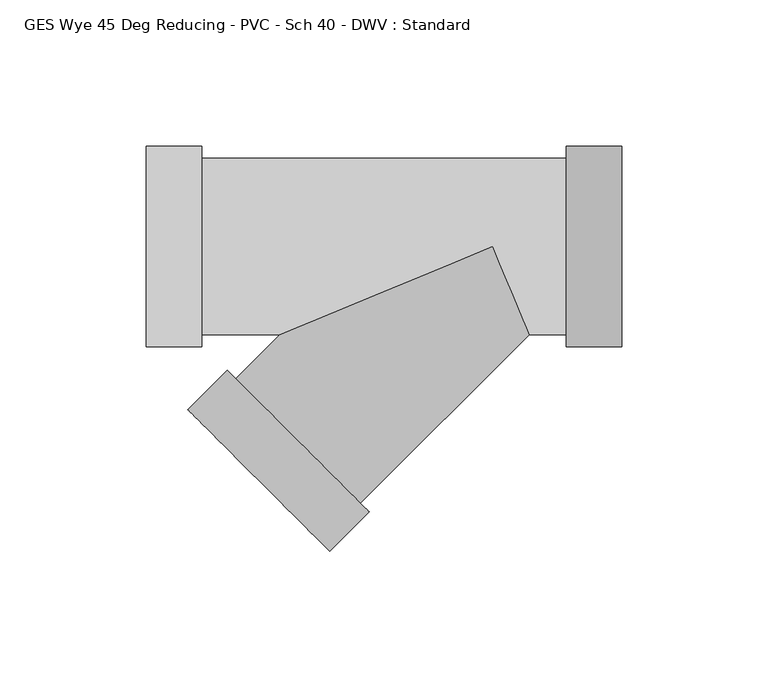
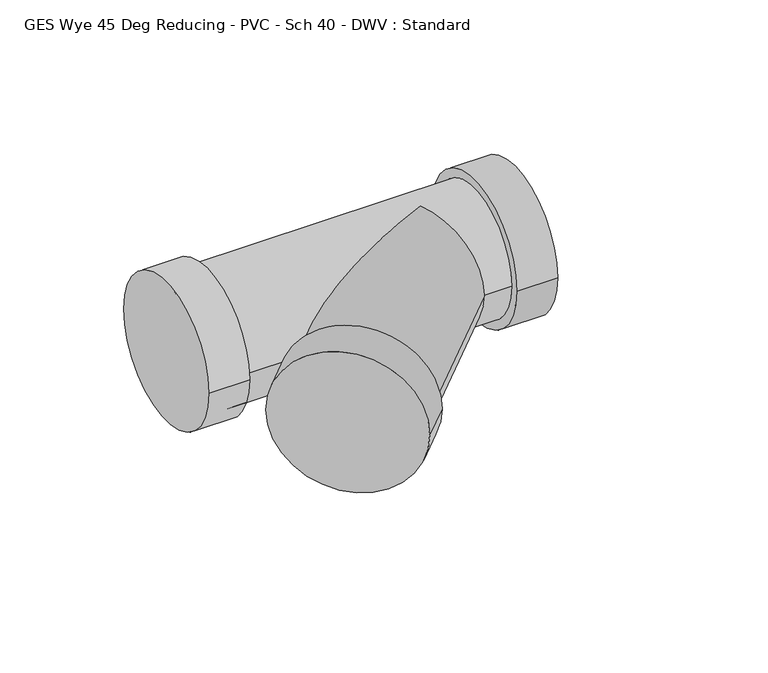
"""IFC4 building model written with IfcOpenShell, lengths in millimetres: pipe fitting geometry, GES Wye 45 Deg Reducing - PVC - Sch 40 - DWV : Standard."""

from ifc_helpers import new_model, si_unit, frame, origin, place, context, project, spatial, circle_curve, ellipse_curve, source, transform, mapped, element, save
from ifc_brep_helpers import plane_surface, cylinder_surface, advanced_brep


def ges_wye_45_deg_reducing_pvc_sch_40_dwv_standard_a890de96(model_context):
    return source(origin(), model_context, "Body", "AdvancedBrep", [
        advanced_brep(
        [(-99.5759375, 34.3154, 0.0), (-99.5759375, -34.3154, 0.0), (-99.5759375, 30.1625, 0.0), (-99.5759375, -30.1625, 0.0), (-118.6259375, 34.3154, 0.0), (-118.6259375, -34.3154, 0.0), (25.1182188, -34.3154, 0.0), (25.1182188, 34.3154, 0.0), (25.1182188, -30.1625, 0.0), (25.1182188, 30.1625, 0.0), (44.1682188, -34.3154, 0.0), (44.1682188, 34.3154, 0.0), (12.4939328, -30.1625, 0.0), (0.0, 0.0, -30.1625), (-72.8174561, -30.1625, 0.0), (0.0, 0.0, 30.1625), (-87.9357975, -45.2812115, 0.0), (-45.2790588, -87.936906, 0.0), (-90.8723772, -42.3447037, 0.0), (-42.3424791, -90.8734138, 0.0), (-104.3425965, -55.8152527, 0.0), (-55.8126984, -104.3439628, 0.0)],
        [
            (0, 1, circle_curve(frame((-99.5759375, 0.0, 0.0), z_axis=(1.0, 0.0, 0.0), x_axis=(0.0, -1.0, 0.0)), 34.3154)),
            (1, 0, circle_curve(frame((-99.5759375, 0.0, 0.0), z_axis=(1.0, 0.0, 0.0), x_axis=(0.0, -1.0, 0.0)), 34.3154)),
            (2, 3, circle_curve(frame((-99.5759375, 0.0, 0.0), z_axis=(-1.0, 0.0, 0.0), x_axis=(0.0, 0.0, -1.0)), 30.1625)),
            (3, 2, circle_curve(frame((-99.5759375, 0.0, 0.0), z_axis=(-1.0, 0.0, 0.0), x_axis=(0.0, 0.0, 1.0)), 30.1625)),
            (4, 5, circle_curve(frame((-118.6259375, 0.0, 0.0), z_axis=(-1.0, 0.0, 0.0), x_axis=(0.0, -1.0, 0.0)), 34.3154)),
            (5, 4, circle_curve(frame((-118.6259375, 0.0, 0.0), z_axis=(-1.0, 0.0, 0.0), x_axis=(0.0, -1.0, 0.0)), 34.3154)),
            (0, 4),
            (5, 1),
            (6, 7, circle_curve(frame((25.1182188, 0.0, 0.0), z_axis=(-1.0, 0.0, 0.0), x_axis=(0.0, 1.0, 0.0)), 34.3154)),
            (7, 6, circle_curve(frame((25.1182188, 0.0, 0.0), z_axis=(-1.0, 0.0, 0.0), x_axis=(0.0, 1.0, 0.0)), 34.3154)),
            (8, 9, circle_curve(frame((25.1182188, 0.0, 0.0), z_axis=(1.0, 0.0, 0.0), x_axis=(0.0, 0.0, -1.0)), 30.1625)),
            (9, 8, circle_curve(frame((25.1182188, 0.0, 0.0), z_axis=(1.0, 0.0, 0.0), x_axis=(0.0, 0.0, 1.0)), 30.1625)),
            (10, 11, circle_curve(frame((44.1682188, 0.0, 0.0), z_axis=(1.0, 0.0, 0.0), x_axis=(0.0, 1.0, 0.0)), 34.3154)),
            (11, 10, circle_curve(frame((44.1682188, 0.0, 0.0), z_axis=(1.0, 0.0, 0.0), x_axis=(0.0, 1.0, 0.0)), 34.3154)),
            (6, 10),
            (11, 7),
            (2, 9),
            (8, 12),
            (12, 13, ellipse_curve(frame((0.0, 0.0, 0.0), z_axis=(0.9238771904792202, 0.3826890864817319, 0.0), x_axis=(0.38268908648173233, -0.92387719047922, 0.0)), 32.6477375, 30.1625)),
            (13, 14, ellipse_curve(frame((0.0, 0.0, 0.0), z_axis=(-0.3826890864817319, 0.9238771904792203, 0.0), x_axis=(0.9238771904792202, 0.38268908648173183, 0.0)), 78.8172463, 30.1625)),
            (14, 3),
            (14, 15, ellipse_curve(frame((0.0, 0.0, 0.0), z_axis=(-0.3826890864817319, 0.9238771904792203, 0.0), x_axis=(0.9238771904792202, 0.38268908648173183, 0.0)), 78.8172463, 30.1625)),
            (15, 12, ellipse_curve(frame((0.0, 0.0, 0.0), z_axis=(0.9238771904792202, 0.3826890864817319, 0.0), x_axis=(0.38268908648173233, -0.92387719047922, 0.0)), 32.6477375, 30.1625)),
            (14, 16),
            (16, 17, circle_curve(frame((-66.6074282, -66.6090587, 0.0), z_axis=(0.707098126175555, 0.7071154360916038, 0.0), x_axis=(0.7071154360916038, -0.707098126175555, 0.0)), 30.1625)),
            (17, 12),
            (17, 16, circle_curve(frame((-66.6074282, -66.6090587, 0.0), z_axis=(0.707098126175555, 0.7071154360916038, 0.0), x_axis=(0.7071154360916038, -0.707098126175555, 0.0)), 30.1625)),
            (18, 19, circle_curve(frame((-66.6074282, -66.6090587, 0.0), z_axis=(0.7070981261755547, 0.7071154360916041, 0.0), x_axis=(0.7071154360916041, -0.7070981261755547, 0.0)), 34.3154)),
            (19, 18, circle_curve(frame((-66.6074282, -66.6090587, 0.0), z_axis=(0.7070981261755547, 0.7071154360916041, 0.0), x_axis=(0.7071154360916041, -0.7070981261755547, 0.0)), 34.3154)),
            (20, 21, circle_curve(frame((-80.0776475, -80.0796078, 0.0), z_axis=(-0.7070981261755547, -0.7071154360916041, 0.0), x_axis=(0.7071154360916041, -0.7070981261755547, 0.0)), 34.3154)),
            (21, 20, circle_curve(frame((-80.0776475, -80.0796078, 0.0), z_axis=(-0.7070981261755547, -0.7071154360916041, 0.0), x_axis=(0.7071154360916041, -0.7070981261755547, 0.0)), 34.3154)),
            (18, 20),
            (21, 19),
        ],
        [
            plane_surface(frame((-99.5759375, 0.0, 0.0), z_axis=(1.0, 0.0, 0.0), x_axis=(0.0, 0.0, 1.0))),
            plane_surface(frame((-118.6259375, 0.0, 0.0), z_axis=(-1.0, 0.0, 0.0), x_axis=(0.0, 0.0, 1.0))),
            cylinder_surface(frame((-99.5759375, 0.0, 0.0), z_axis=(1.0, 0.0, 0.0), x_axis=(0.0, -1.0, 0.0)), 34.3154),
            plane_surface(frame((25.1182188, 0.0, 0.0), z_axis=(-1.0, 0.0, 0.0), x_axis=(0.0, 0.0, 1.0))),
            plane_surface(frame((44.1682188, 0.0, 0.0), z_axis=(1.0, 0.0, 0.0), x_axis=(0.0, 0.0, 1.0))),
            cylinder_surface(frame((25.1182188, 0.0, 0.0), z_axis=(-1.0, 0.0, 0.0), x_axis=(0.0, 1.0, 0.0)), 34.3154),
            cylinder_surface(frame((-99.5759375, 0.0, 0.0), z_axis=(1.0, 0.0, 0.0), x_axis=(0.0, 0.0, -1.0)), 30.1625),
            cylinder_surface(frame((-99.5759375, 0.0, 0.0), z_axis=(1.0, 0.0, 0.0), x_axis=(0.0, 0.0, 1.0)), 30.1625),
            cylinder_surface(frame((0.0, 0.0, 0.0), z_axis=(0.707098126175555, 0.7071154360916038, 0.0), x_axis=(0.7071154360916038, -0.707098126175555, 0.0)), 30.1625),
            plane_surface(frame((-66.6074282, -66.6090587, 0.0), z_axis=(0.7070981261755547, 0.7071154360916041, 0.0), x_axis=(0.0, 0.0, 1.0))),
            plane_surface(frame((-80.0776475, -80.0796078, 0.0), z_axis=(-0.7070981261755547, -0.7071154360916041, 0.0), x_axis=(0.0, 0.0, 1.0))),
            cylinder_surface(frame((-66.6074282, -66.6090587, 0.0), z_axis=(0.7070981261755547, 0.7071154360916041, 0.0), x_axis=(0.7071154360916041, -0.7070981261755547, 0.0)), 34.3154),
        ],
        [
            (0, [[1, 2], [3, 4]]),
            (1, [[5, 6]]),
            (2, [[-1, 7, -6, 8]]),
            (2, [[-2, -8, -5, -7]]),
            (3, [[9, 10], [11, 12]]),
            (4, [[13, 14]]),
            (5, [[-9, 15, -14, 16]]),
            (5, [[-10, -16, -13, -15]]),
            (6, [[17, -11, 18, 19, 20, 21, -3]]),
            (7, [[-17, -4, -21, 22, 23, -18, -12]]),
            (8, [[24, 25, 26, -23, -22]]),
            (8, [[-24, -20, -19, -26, 27]]),
            (9, [[28, 29], [-25, -27]]),
            (10, [[30, 31]]),
            (11, [[-28, 32, -31, 33]]),
            (11, [[-29, -33, -30, -32]]),
        ],
    ),
    ])


if __name__ == "__main__":
    model = new_model("IFC4")
    model_context = context("Model", 3, world=origin())
    ifc_project = project(units=[si_unit("LENGTHUNIT", "METRE", prefix="MILLI")], contexts=[model_context])
    site = spatial("IfcSite", under=ifc_project)
    building = spatial("IfcBuilding", under=site)
    placement = place(None, origin())
    ges_wye_45_deg_reducing_pvc_sch_40_dwv_standard_shape = ges_wye_45_deg_reducing_pvc_sch_40_dwv_standard_a890de96(model_context)
    element("IfcPipeFitting", 1, ObjectType="GES Wye 45 Deg Reducing - PVC - Sch 40 - DWV : Standard", at=placement, inside=building, context=model_context, shape_type="MappedRepresentation", body=[
        mapped(ges_wye_45_deg_reducing_pvc_sch_40_dwv_standard_shape, transform((0.0, 0.0, 0.0), x_axis=(1.0, 0.0, 0.0), y_axis=(0.0, 1.0, 0.0), z_axis=(0.0, 0.0, 1.0))),
    ])
    save(model, "model.ifc")
